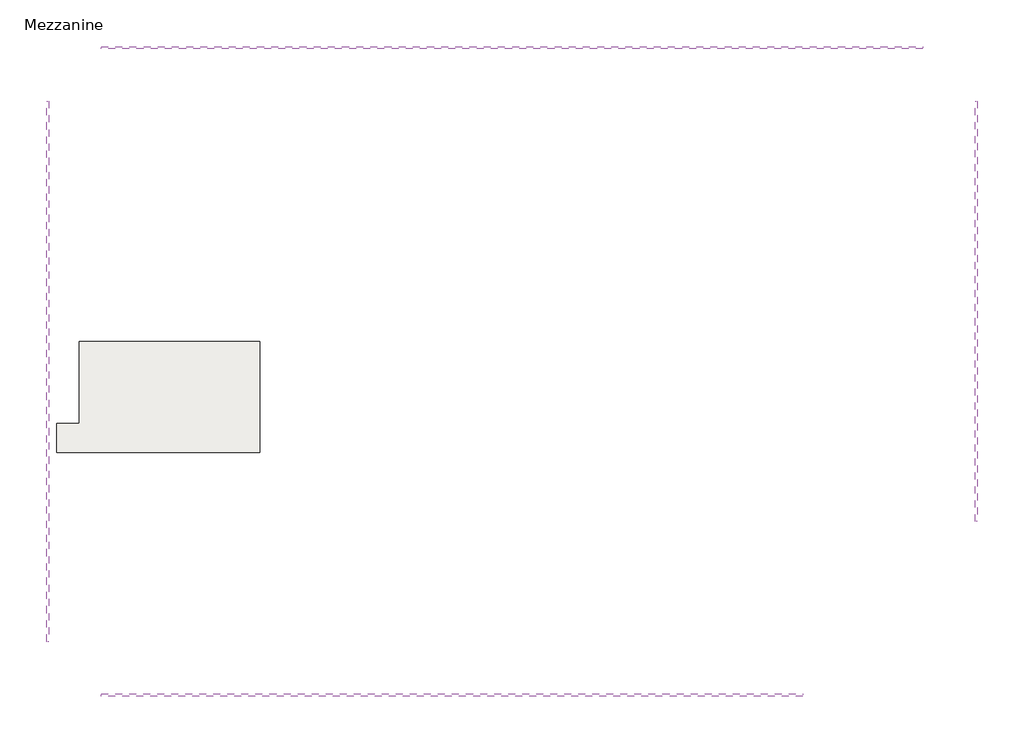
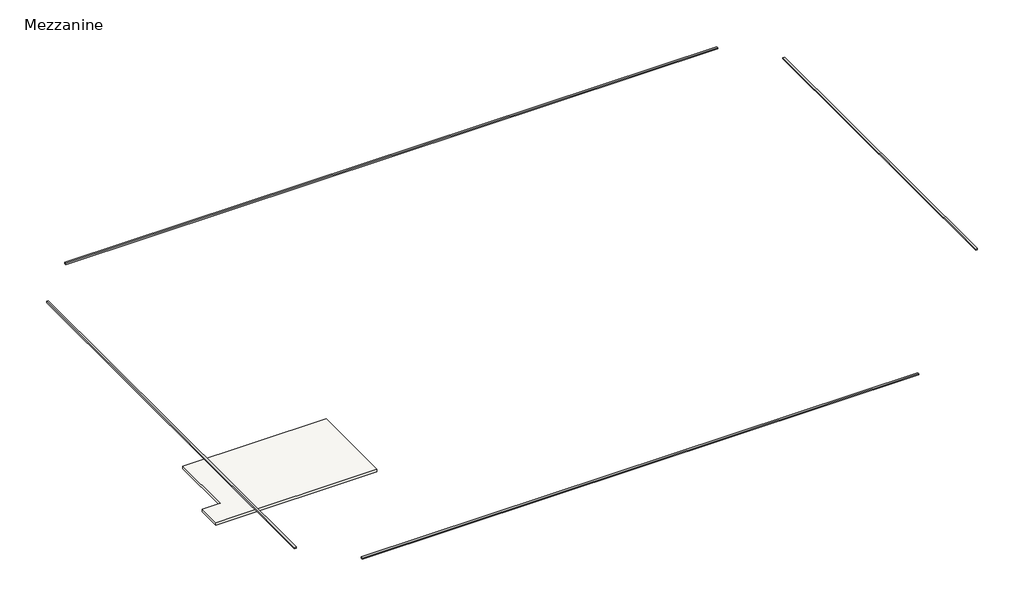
# One storey: 4 proxies, 1 slab.
"""IFC4 building model written with IfcOpenShell, lengths in millimetres."""

from ifc_helpers import new_model, si_unit, frame, origin, place, context, project, spatial, polyline, outline, extrude, element, save

model = new_model("IFC4")

# Units and contexts
model_context = context("Model", 3, world=origin())
ifc_project = project(units=[si_unit("LENGTHUNIT", "METRE", prefix="MILLI")], contexts=[model_context])

# Site, building, storey
site = spatial("IfcSite", under=ifc_project)
building = spatial("IfcBuilding", under=site)
storey = spatial("IfcBuildingStorey", under=building, Name="Mezzanine", Elevation=3500.0)

# Proxies
placement = place(None, origin())
element("IfcBuildingElementProxy", 1, Name="Reveals", at=placement, inside=storey, context=model_context, shape_type="SweptSolid", body=[
    extrude(outline(polyline([(11070.0272279, -14331.9313057), (11070.0272279, -14434.4313057), (-20031.4727721, -14434.4313057), (-20031.4727721, -14331.9313057), (11070.0272279, -14331.9313057)])), frame((0.0, 0.0, 7200.0), z_axis=(0.0, 0.0, 1.0), x_axis=(1.0, 0.0, 0.0)), (0.0, 0.0, 1.0), 75.0),
])
element("IfcBuildingElementProxy", 2, Name="Reveals", at=placement, inside=storey, context=model_context, shape_type="SweptSolid", body=[
    extrude(outline(polyline([(-22344.4727721, -12018.7313057), (-22446.9727721, -12018.7313057), (-22446.9727721, 11955.0686943), (-22344.4727721, 11955.0686943), (-22344.4727721, -12018.7313057)])), frame((0.0, 0.0, 7200.0), z_axis=(0.0, 0.0, 1.0), x_axis=(1.0, 0.0, 0.0)), (0.0, 0.0, 1.0), 75.0),
])
element("IfcBuildingElementProxy", 3, Name="Reveals", at=placement, inside=storey, context=model_context, shape_type="SweptSolid", body=[
    extrude(outline(polyline([(-20031.4727721, 14268.0686943), (-20031.4727721, 14370.5686943), (16392.5272279, 14370.5686943), (16392.5272279, 14268.0686943), (-20031.4727721, 14268.0686943)])), frame((0.0, 0.0, 7200.0), z_axis=(0.0, 0.0, 1.0), x_axis=(1.0, 0.0, 0.0)), (0.0, 0.0, 1.0), 75.0),
])
element("IfcBuildingElementProxy", 4, Name="Reveals", at=placement, inside=storey, context=model_context, shape_type="SweptSolid", body=[
    extrude(outline(polyline([(18705.5272279, 11955.0686943), (18808.0272279, 11955.0686943), (18808.0272279, -6696.4313057), (18705.5272279, -6696.4313057), (18705.5272279, 11955.0686943)])), frame((0.0, 0.0, 7200.0), z_axis=(0.0, 0.0, 1.0), x_axis=(1.0, 0.0, 0.0)), (0.0, 0.0, 1.0), 75.0),
])

# Slab
element("IfcSlab", 5, ObjectType="Generic 150mm", at=placement, inside=storey, context=model_context, shape_type="SweptSolid", body=[
    extrude(outline(polyline([(-21990.4727721, -3637.6813057), (-21990.4727721, -2337.6813057), (-20990.4727721, -2337.6813057), (-20990.4727721, 1287.1520298), (-12988.7227721, 1287.1520298), (-12988.7227721, -3637.6813057), (-21990.4727721, -3637.6813057)])), frame((0.0, 0.0, 3350.0), z_axis=(0.0, 0.0, 1.0), x_axis=(1.0, 0.0, 0.0)), (0.0, 0.0, 1.0), 150.0),
])

save(model, "model.ifc")
